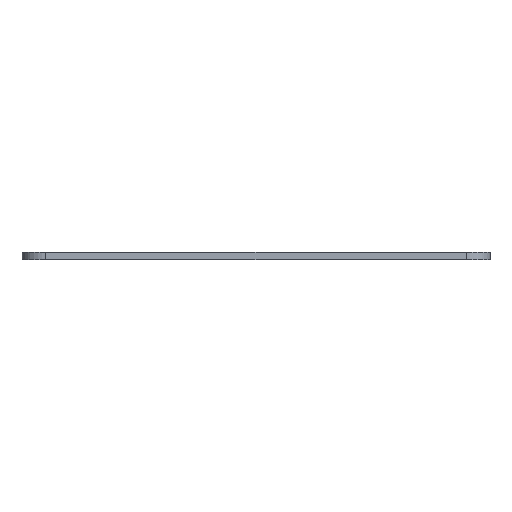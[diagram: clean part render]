
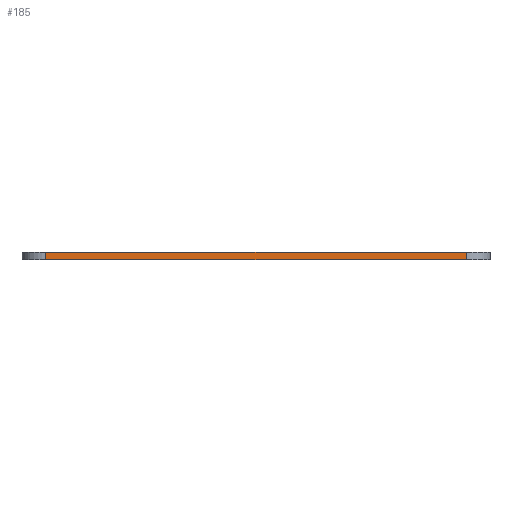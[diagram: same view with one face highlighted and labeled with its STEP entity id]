
A CAD part, front view. The second image highlights one B-rep face of the part: STEP entity #185.
In plain terms, the highlighted planar face has unit normal (0, -1, 0).
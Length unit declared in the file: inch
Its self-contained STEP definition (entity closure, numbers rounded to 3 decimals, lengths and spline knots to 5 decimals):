
#29 = VERTEX_POINT ( 'NONE', #759 ) ;
#31 = VECTOR ( 'NONE', #847, 39.37008 ) ;
#36 = VECTOR ( 'NONE', #787, 39.37008 ) ;
#89 = FACE_OUTER_BOUND ( 'NONE', #806, .T. ) ;
#101 = EDGE_CURVE ( 'NONE', #818, #784, #1015, .T. ) ;
#166 = VECTOR ( 'NONE', #933, 39.37008 ) ;
#185 = ADVANCED_FACE ( 'NONE', ( #89 ), #465, .F. ) ;
#225 = CARTESIAN_POINT ( 'NONE',  ( 3.57596, 0., 0.06 ) ) ;
#245 = EDGE_CURVE ( 'NONE', #784, #29, #674, .T. ) ;
#251 = ORIENTED_EDGE ( 'NONE', *, *, #245, .F. ) ;
#258 = CARTESIAN_POINT ( 'NONE',  ( 3.57596, 0., 0.06 ) ) ;
#267 = VECTOR ( 'NONE', #533, 39.37008 ) ;
#292 = CARTESIAN_POINT ( 'NONE',  ( 0.19062, 0., 0.06 ) ) ;
#296 = CARTESIAN_POINT ( 'NONE',  ( 0., 0., 0. ) ) ;
#351 = ORIENTED_EDGE ( 'NONE', *, *, #463, .T. ) ;
#384 = LINE ( 'NONE', #296, #166 ) ;
#385 = CARTESIAN_POINT ( 'NONE',  ( 0., 0., 0.06 ) ) ;
#392 = VERTEX_POINT ( 'NONE', #724 ) ;
#415 = LINE ( 'NONE', #292, #31 ) ;
#432 = EDGE_CURVE ( 'NONE', #392, #818, #415, .T. ) ;
#463 = EDGE_CURVE ( 'NONE', #392, #29, #384, .T. ) ;
#465 = PLANE ( 'NONE',  #834 ) ;
#533 = DIRECTION ( 'NONE',  ( 1., 0., 0. ) ) ;
#542 = DIRECTION ( 'NONE',  ( 0., 0., 1. ) ) ;
#618 = DIRECTION ( 'NONE',  ( 0., 1., 0. ) ) ;
#674 = LINE ( 'NONE', #225, #36 ) ;
#724 = CARTESIAN_POINT ( 'NONE',  ( 0.19062, 0., 0. ) ) ;
#741 = CARTESIAN_POINT ( 'NONE',  ( 0.19062, 0., 0.06 ) ) ;
#759 = CARTESIAN_POINT ( 'NONE',  ( 3.57596, 0., 0. ) ) ;
#784 = VERTEX_POINT ( 'NONE', #258 ) ;
#787 = DIRECTION ( 'NONE',  ( 0., 0., -1. ) ) ;
#806 = EDGE_LOOP ( 'NONE', ( #251, #1005, #873, #351 ) ) ;
#818 = VERTEX_POINT ( 'NONE', #741 ) ;
#834 = AXIS2_PLACEMENT_3D ( 'NONE', #385, #618, #542 ) ;
#847 = DIRECTION ( 'NONE',  ( 0., 0., 1. ) ) ;
#873 = ORIENTED_EDGE ( 'NONE', *, *, #432, .F. ) ;
#933 = DIRECTION ( 'NONE',  ( 1., 0., 0. ) ) ;
#1005 = ORIENTED_EDGE ( 'NONE', *, *, #101, .F. ) ;
#1006 = CARTESIAN_POINT ( 'NONE',  ( 0., 0., 0.06 ) ) ;
#1015 = LINE ( 'NONE', #1006, #267 ) ;
